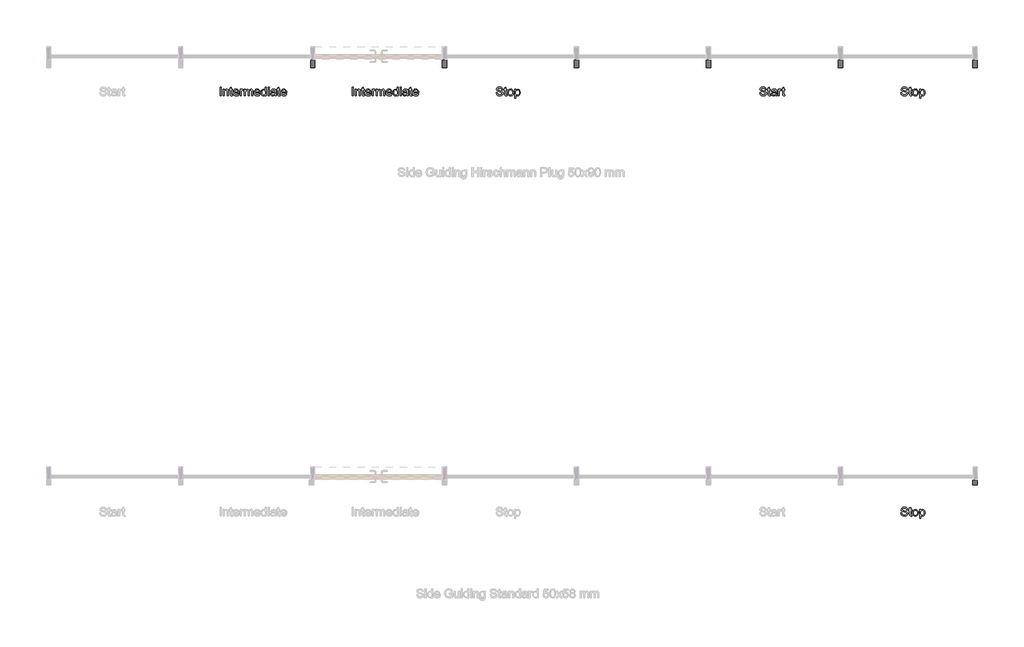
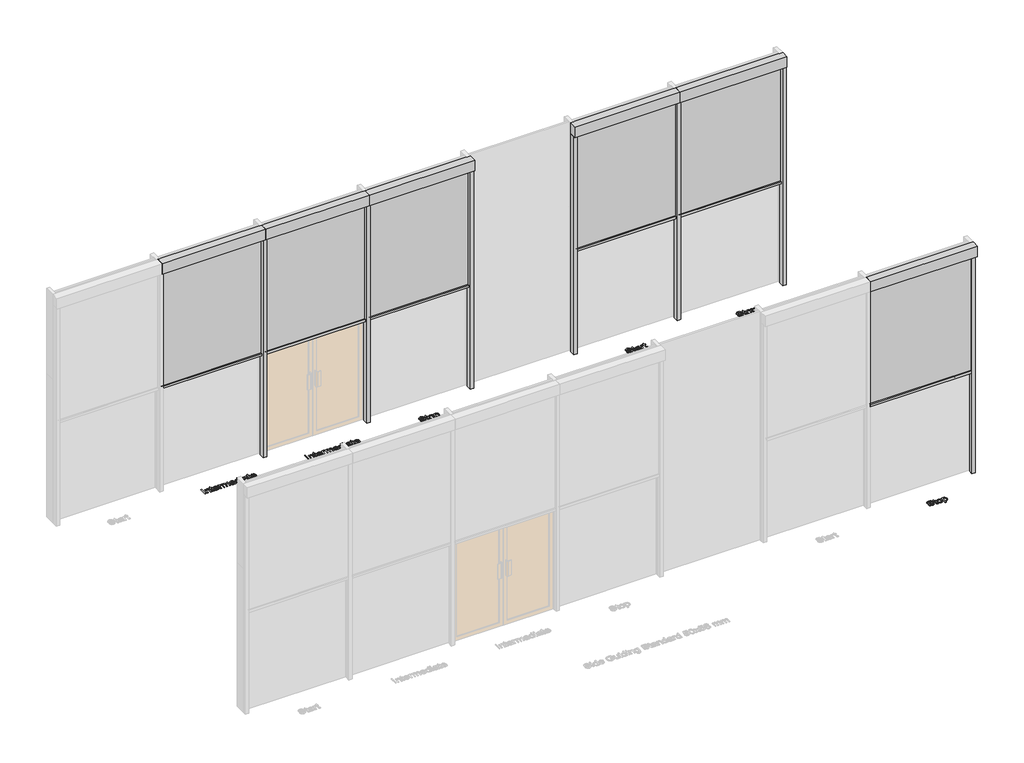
# One storey, part 8 of 8: 12 proxies.
"""IFC4 building model written with IfcOpenShell, lengths in millimetres."""

from ifc_helpers import new_model, si_unit, origin, origin_with_axes, place, context, project, spatial, polyline, outline, extrude, transform, mapped, element, save
from components import generic_models_6516fcb3, generic_models_74c36e77, generic_models_59065b77, generic_models_1de3ce15, generic_models_317902a9

model = new_model("IFC4")

# Units and contexts
model_context = context("Model", 3, world=origin())
ifc_project = project(units=[si_unit("LENGTHUNIT", "METRE", prefix="MILLI")], contexts=[model_context])

# Site, building, storey
site = spatial("IfcSite", under=ifc_project)
building = spatial("IfcBuilding", under=site)
storey = spatial("IfcBuildingStorey", under=building, Name="Fixscreen Mini CW50 Overview Top", Elevation=0.0)

# Proxies
placement = place(None, origin())
generic_models_shape = generic_models_6516fcb3(model_context)
element("IfcBuildingElementProxy", 1, Name="Renson_Fixscreen_Minimal_CW50_Middle : For curtain wall - Middle element - Access downwards - Fabric close to the window", ObjectType="Renson_Fixscreen_Minimal_CW50_Middle : For curtain wall - Middle element - Access downwards - Fabric close to the window", at=placement, inside=storey, context=model_context, shape_type="MappedRepresentation", body=[
    mapped(generic_models_shape, transform((-5413.6521319, 5887.7476142, 0.0), x_axis=(1.0, 0.0, 0.0), y_axis=(0.0, 1.0, 0.0), z_axis=(0.0, 0.0, 1.0))),
])
element("IfcBuildingElementProxy", 2, Name="Renson_Fixscreen_Minimal_CW50_Middle : For curtain wall - Middle element - Access downwards - Fabric close to the window", ObjectType="Renson_Fixscreen_Minimal_CW50_Middle : For curtain wall - Middle element - Access downwards - Fabric close to the window", at=placement, inside=storey, context=model_context, shape_type="MappedRepresentation", body=[
    mapped(generic_models_shape, transform((-6913.6521319, 5887.7476142, 0.0), x_axis=(1.0, 0.0, 0.0), y_axis=(0.0, 1.0, 0.0), z_axis=(0.0, 0.0, 1.0))),
])
generic_models_2_shape = generic_models_74c36e77(model_context)
element("IfcBuildingElementProxy", 3, Name="Renson_Fixscreen_Minimal_CW50_End : For curtain wall - End element - Access downwards - Fabric close to the window", ObjectType="Renson_Fixscreen_Minimal_CW50_End : For curtain wall - End element - Access downwards - Fabric close to the window", at=placement, inside=storey, context=model_context, shape_type="MappedRepresentation", body=[
    mapped(generic_models_2_shape, transform((-3913.6900961, 5887.7476142, 0.0), x_axis=(1.0, 0.0, 0.0), y_axis=(0.0, 1.0, 0.0), z_axis=(0.0, 0.0, 1.0))),
])
generic_models_3_shape = generic_models_59065b77(model_context)
element("IfcBuildingElementProxy", 4, Name="Renson_Fixscreen_Minimal_CW50_End : For curtain wall - End element - Access downwards - Fabric close to the window", ObjectType="Renson_Fixscreen_Minimal_CW50_End : For curtain wall - End element - Access downwards - Fabric close to the window", at=placement, inside=storey, context=model_context, shape_type="MappedRepresentation", body=[
    mapped(generic_models_3_shape, transform((611.3099039, 1107.6014385, 0.0), x_axis=(1.0, 0.0, 0.0), y_axis=(0.0, 1.0, 0.0), z_axis=(0.0, 0.0, 1.0))),
])
generic_models_4_shape = generic_models_1de3ce15(model_context)
element("IfcBuildingElementProxy", 5, Name="Renson_Fixscreen_Minimal_CW50_End : For curtain wall - End element - Access downwards - Fabric close to the window", ObjectType="Renson_Fixscreen_Minimal_CW50_End : For curtain wall - End element - Access downwards - Fabric close to the window", at=placement, inside=storey, context=model_context, shape_type="MappedRepresentation", body=[
    mapped(generic_models_4_shape, transform((611.3478681, 5887.7476142, 0.0), x_axis=(1.0, 0.0, 0.0), y_axis=(0.0, 1.0, 0.0), z_axis=(0.0, 0.0, 1.0))),
])
generic_models_5_shape = generic_models_317902a9(model_context)
element("IfcBuildingElementProxy", 6, Name="Renson_Fixscreen_Minimal_CW50_Start : For curtain wall - Start element - Access downwards - Fabric close to the window", ObjectType="Renson_Fixscreen_Minimal_CW50_Start : For curtain wall - Start element - Access downwards - Fabric close to the window", at=placement, inside=storey, context=model_context, shape_type="MappedRepresentation", body=[
    mapped(generic_models_5_shape, transform((-913.6521319, 5887.7476142, 0.0), x_axis=(1.0000000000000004, 0.0, 0.0), y_axis=(0.0, 1.0000000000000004, 0.0), z_axis=(0.0, 0.0, 1.0))),
])
element("IfcBuildingElementProxy", 7, Name="100mm Arial", ObjectType="100mm Arial", at=placement, inside=storey, context=model_context, shape_type="SweptSolid", body=[
    extrude(outline(polyline([(-5961.9211574, 4784.0953647), (-5961.9211574, 4884.5516749), (-5949.3641186, 4884.5516749), (-5949.3641186, 4784.0953647), (-5961.9211574, 4784.0953647)])), origin_with_axes(), (0.0, 0.0, 1.0), 5.0),
    extrude(outline(polyline([(-5925.8196709, 4784.0953647), (-5925.8196709, 4857.8679675), (-5913.2626321, 4857.8679675), (-5913.2626321, 4847.5672716), (-5903.6609121, 4856.4700159), (-5890.5520503, 4859.4375974), (-5878.6939873, 4857.0463644), (-5870.6005834, 4850.767845), (-5866.8359243, 4841.5340069), (-5866.1737367, 4829.3939011), (-5866.1737367, 4784.0953647), (-5878.7307755, 4784.0953647), (-5878.7307755, 4827.7016439), (-5880.177778, 4838.8116802), (-5885.2913378, 4844.6855293), (-5893.9120392, 4846.8805586), (-5907.5359357, 4841.9509399), (-5911.830958, 4834.8078978), (-5913.2626321, 4823.238009), (-5913.2626321, 4784.0953647), (-5925.8196709, 4784.0953647)])), origin_with_axes(), (0.0, 0.0, 1.0), 5.0),
    extrude(outline(polyline([(-5822.2241011, 4794.5677389), (-5820.6544712, 4783.7274827), (-5830.0477248, 4782.5257349), (-5840.5691499, 4784.6103995), (-5845.8175997, 4790.0795785), (-5847.3381786, 4804.3288745), (-5847.3381786, 4845.3109287), (-5856.7559577, 4845.3109287), (-5856.7559577, 4857.8679675), (-5847.3381786, 4857.8679675), (-5847.3381786, 4875.7960834), (-5834.7811398, 4883.1782488), (-5834.7811398, 4857.8679675), (-5822.2241011, 4857.8679675), (-5822.2241011, 4845.3109287), (-5834.7811398, 4845.3109287), (-5834.7811398, 4804.6967565), (-5834.1189522, 4798.2220334), (-5831.9729739, 4795.9289023), (-5827.69328, 4795.0827737), (-5822.2241011, 4794.5677389)])), origin_with_axes(), (0.0, 0.0, 1.0), 5.0),
    extrude(outline(polyline([(-5758.0164302, 4806.0701826), (-5745.7046461, 4804.5005527), (-5750.1406898, 4795.2237951), (-5757.2193525, 4788.2892195), (-5766.7812187, 4783.966606), (-5778.6668728, 4782.5257349), (-5793.4005467, 4785.012004), (-5804.7374435, 4792.4708115), (-5811.9663248, 4804.4177793), (-5814.3759518, 4820.3685295), (-5811.9417993, 4836.8557742), (-5804.6393417, 4849.1859524), (-5793.455729, 4856.8746861), (-5779.3781113, 4859.4375974), (-5765.7388864, 4856.8808175), (-5754.8403823, 4849.2104779), (-5747.6942745, 4836.9048252), (-5745.3122386, 4820.4421059), (-5745.385815, 4817.0575915), (-5801.8189131, 4817.0575915), (-5799.6453436, 4807.6582065), (-5794.5961632, 4800.7481564), (-5787.309034, 4796.4991193), (-5778.4216182, 4795.0827737), (-5766.1098341, 4797.7069986), (-5758.0164302, 4806.0701826)]), holes=[polyline([(-5801.8189131, 4829.6146303), (-5757.8692774, 4829.6146303), (-5762.896998, 4840.9944467), (-5770.2178497, 4845.4090306), (-5779.4271623, 4846.8805586), (-5794.8904688, 4842.1839318), (-5799.7557082, 4836.693293), (-5801.8189131, 4829.6146303)])]), origin_with_axes(), (0.0, 0.0, 1.0), 5.0),
    extrude(outline(polyline([(-5732.7551998, 4784.0953647), (-5732.7551998, 4857.8679675), (-5721.7677909, 4857.8679675), (-5721.7677909, 4846.954135), (-5713.9686926, 4857.0095762), (-5706.1205434, 4859.4375974), (-5693.5144537, 4855.5625737), (-5697.7083084, 4844.3053846), (-5706.5374763, 4846.8805586), (-5713.6375988, 4844.4034865), (-5718.1625474, 4837.5363559), (-5720.1981611, 4822.870127), (-5720.1981611, 4784.0953647), (-5732.7551998, 4784.0953647)])), origin_with_axes(), (0.0, 0.0, 1.0), 5.0),
    extrude(outline(polyline([(-5685.6663044, 4784.0953647), (-5685.6663044, 4857.8679675), (-5673.1092657, 4857.8679675), (-5673.1092657, 4845.7278617), (-5664.4763015, 4855.6729383), (-5652.1890429, 4859.4375974), (-5639.6074786, 4855.5993619), (-5632.6912971, 4844.8449449), (-5622.8933733, 4855.7894342), (-5610.5202756, 4859.4375974), (-5601.0810367, 4857.9200841), (-5594.1004758, 4853.3675444), (-5589.7870594, 4845.657351), (-5588.349254, 4834.6668763), (-5588.349254, 4784.0953647), (-5600.9062928, 4784.0953647), (-5600.9062928, 4829.2712738), (-5602.0712524, 4839.7559106), (-5606.2896326, 4844.9185213), (-5613.4633315, 4846.8805586), (-5625.8119038, 4841.852838), (-5629.4999208, 4835.3106698), (-5630.7292598, 4825.7396066), (-5630.7292598, 4784.0953647), (-5643.2862986, 4784.0953647), (-5643.2862986, 4830.6692253), (-5646.1925664, 4842.8338566), (-5655.72071, 4846.8805586), (-5665.0158618, 4844.1827573), (-5671.1962793, 4836.2855571), (-5673.1092657, 4821.3004972), (-5673.1092657, 4784.0953647), (-5685.6663044, 4784.0953647)])), origin_with_axes(), (0.0, 0.0, 1.0), 5.0),
    extrude(outline(polyline([(-5517.8630637, 4806.0701826), (-5505.5512796, 4804.5005527), (-5509.9873233, 4795.2237951), (-5517.0659861, 4788.2892195), (-5526.6278522, 4783.966606), (-5538.5135064, 4782.5257349), (-5553.2471803, 4785.012004), (-5564.5840771, 4792.4708115), (-5571.8129583, 4804.4177793), (-5574.2225854, 4820.3685295), (-5571.7884328, 4836.8557742), (-5564.4859752, 4849.1859524), (-5553.3023626, 4856.8746861), (-5539.2247449, 4859.4375974), (-5525.5855199, 4856.8808175), (-5514.6870158, 4849.2104779), (-5507.5409081, 4836.9048252), (-5505.1588721, 4820.4421059), (-5505.2324485, 4817.0575915), (-5561.6655466, 4817.0575915), (-5559.4919771, 4807.6582065), (-5554.4427968, 4800.7481564), (-5547.1556676, 4796.4991193), (-5538.2682517, 4795.0827737), (-5525.9564676, 4797.7069986), (-5517.8630637, 4806.0701826)]), holes=[polyline([(-5561.6655466, 4829.6146303), (-5517.7159109, 4829.6146303), (-5522.7436315, 4840.9944467), (-5530.0644832, 4845.4090306), (-5539.2737958, 4846.8805586), (-5554.7371024, 4842.1839318), (-5559.6023417, 4836.693293), (-5561.6655466, 4829.6146303)])]), origin_with_axes(), (0.0, 0.0, 1.0), 5.0),
    extrude(outline(polyline([(-5447.0825678, 4784.0953647), (-5447.0825678, 4795.941165), (-5455.3905696, 4785.8795924), (-5466.8746192, 4782.5257349), (-5482.4237648, 4787.3817772), (-5493.4111738, 4800.9320974), (-5497.3107229, 4820.9080897), (-5493.7177421, 4840.8963448), (-5482.9510624, 4854.6551314), (-5466.9236701, 4859.4375974), (-5455.34765, 4856.0162948), (-5447.0825678, 4847.1258133), (-5447.0825678, 4884.5516749), (-5434.5255291, 4884.5516749), (-5434.5255291, 4784.0953647), (-5447.0825678, 4784.0953647)]), holes=[polyline([(-5484.7536841, 4820.9571407), (-5483.3373385, 4809.5987841), (-5479.0883014, 4801.5207086), (-5472.9140153, 4796.6922574), (-5465.7219223, 4795.0827737), (-5458.5328949, 4796.618681), (-5452.5149586, 4801.226403), (-5448.4406655, 4808.9917788), (-5447.0825678, 4820.0006475), (-5448.465191, 4832.0365201), (-5452.6130605, 4840.38131), (-5458.784281, 4845.2557464), (-5466.2369571, 4846.8805586), (-5473.5026265, 4845.3201258), (-5479.4561834, 4840.6388274), (-5483.429309, 4832.5975401), (-5484.7536841, 4820.9571407)])]), origin_with_axes(), (0.0, 0.0, 1.0), 5.0),
    extrude(outline(polyline([(-5415.6899709, 4871.9946361), (-5415.6899709, 4884.5516749), (-5403.1329321, 4884.5516749), (-5403.1329321, 4871.9946361), (-5415.6899709, 4871.9946361)])), origin_with_axes(), (0.0, 0.0, 1.0), 5.0),
    extrude(outline(polyline([(-5415.6899709, 4784.0953647), (-5415.6899709, 4857.8679675), (-5403.1329321, 4857.8679675), (-5403.1329321, 4784.0953647), (-5415.6899709, 4784.0953647)])), origin_with_axes(), (0.0, 0.0, 1.0), 5.0),
    extrude(outline(polyline([(-5337.2084786, 4793.5131438), (-5349.3853727, 4785.002807), (-5362.8375909, 4782.5257349), (-5373.3314249, 4784.015657), (-5381.0722752, 4788.4854232), (-5385.8455441, 4795.272846), (-5387.4366337, 4803.7157378), (-5385.033138, 4813.6485517), (-5378.7178304, 4820.8590388), (-5369.9254507, 4824.9793171), (-5359.0606691, 4826.867778), (-5337.282055, 4831.1842601), (-5337.2084786, 4833.9801633), (-5340.6665694, 4843.2507896), (-5354.5479833, 4846.8805586), (-5367.2521749, 4844.4648002), (-5373.3099651, 4835.8931497), (-5385.8670038, 4837.4627795), (-5380.434613, 4849.7255127), (-5369.4962551, 4856.9114743), (-5352.9293025, 4859.4375974), (-5337.7112507, 4857.2057799), (-5329.1150747, 4851.6017109), (-5325.2645765, 4843.0791113), (-5324.6514398, 4832.0917024), (-5324.6514398, 4816.4689803), (-5324.0137777, 4794.653578), (-5321.5121802, 4784.0953647), (-5334.0692189, 4784.0953647), (-5337.2084786, 4793.5131438)]), holes=[polyline([(-5337.2084786, 4818.6272214), (-5357.4665138, 4814.7767231), (-5368.2699817, 4812.7411094), (-5373.1628123, 4809.4301715), (-5374.8795949, 4804.5986546), (-5371.1394613, 4797.8051004), (-5360.1643151, 4795.0827737), (-5347.4601235, 4798.0871433), (-5339.2686178, 4805.3589441), (-5337.282055, 4815.0710287), (-5337.2084786, 4818.6272214)])]), origin_with_axes(), (0.0, 0.0, 1.0), 5.0),
    extrude(outline(polyline([(-5280.7018042, 4794.5677389), (-5279.1321743, 4783.7274827), (-5288.5254279, 4782.5257349), (-5299.046853, 4784.6103995), (-5304.2953028, 4790.0795785), (-5305.8158817, 4804.3288745), (-5305.8158817, 4845.3109287), (-5315.2336608, 4845.3109287), (-5315.2336608, 4857.8679675), (-5305.8158817, 4857.8679675), (-5305.8158817, 4875.7960834), (-5293.2588429, 4883.1782488), (-5293.2588429, 4857.8679675), (-5280.7018042, 4857.8679675), (-5280.7018042, 4845.3109287), (-5293.2588429, 4845.3109287), (-5293.2588429, 4804.6967565), (-5292.5966553, 4798.2220334), (-5290.450677, 4795.9289023), (-5286.1709831, 4795.0827737), (-5280.7018042, 4794.5677389)])), origin_with_axes(), (0.0, 0.0, 1.0), 5.0),
    extrude(outline(polyline([(-5216.4941333, 4806.0701826), (-5204.1823492, 4804.5005527), (-5208.6183929, 4795.2237951), (-5215.6970556, 4788.2892195), (-5225.2589218, 4783.966606), (-5237.1445759, 4782.5257349), (-5251.8782498, 4785.012004), (-5263.2151466, 4792.4708115), (-5270.4440279, 4804.4177793), (-5272.8536549, 4820.3685295), (-5270.4195024, 4836.8557742), (-5263.1170448, 4849.1859524), (-5251.9334321, 4856.8746861), (-5237.8558144, 4859.4375974), (-5224.2165895, 4856.8808175), (-5213.3180854, 4849.2104779), (-5206.1719776, 4836.9048252), (-5203.7899417, 4820.4421059), (-5203.8635181, 4817.0575915), (-5260.2966162, 4817.0575915), (-5258.1230467, 4807.6582065), (-5253.0738663, 4800.7481564), (-5245.7867371, 4796.4991193), (-5236.8993213, 4795.0827737), (-5224.5875372, 4797.7069986), (-5216.4941333, 4806.0701826)]), holes=[polyline([(-5260.2966162, 4829.6146303), (-5216.3469805, 4829.6146303), (-5221.3747011, 4840.9944467), (-5228.6955528, 4845.4090306), (-5237.9048654, 4846.8805586), (-5253.3681719, 4842.1839318), (-5258.2334113, 4836.693293), (-5260.2966162, 4829.6146303)])]), origin_with_axes(), (0.0, 0.0, 1.0), 5.0),
])
element("IfcBuildingElementProxy", 8, Name="100mm Arial", ObjectType="100mm Arial", at=placement, inside=storey, context=model_context, shape_type="SweptSolid", body=[
    extrude(outline(polyline([(-4324.1222357, 4818.6272214), (-4311.5651969, 4818.6272214), (-4307.518495, 4806.0579199), (-4297.634732, 4798.1116688), (-4282.5760957, 4795.0827737), (-4269.4549712, 4797.3759048), (-4260.9814226, 4803.6789496), (-4258.1977821, 4812.1034473), (-4260.2824468, 4819.9393338), (-4268.8173091, 4825.6415047), (-4287.1010442, 4830.4362334), (-4306.782731, 4836.6289137), (-4317.4635716, 4845.9731163), (-4320.982976, 4858.4565787), (-4316.6297057, 4872.6690864), (-4303.9132514, 4882.7000022), (-4285.2984224, 4886.1213047), (-4265.4327947, 4882.5405867), (-4252.1890429, 4872.0191616), (-4247.2103732, 4856.2983377), (-4259.767412, 4856.2983377), (-4262.0728058, 4863.7908676), (-4266.8797972, 4869.198733), (-4284.8079131, 4873.564266), (-4302.78508, 4869.2477839), (-4308.4259372, 4858.8244607), (-4304.4282862, 4850.1179201), (-4283.9249963, 4843.1036368), (-4261.7049238, 4836.8005919), (-4249.5525552, 4826.6225234), (-4245.6407434, 4812.4222784), (-4250.1411664, 4797.4004302), (-4263.0906127, 4786.4375468), (-4282.0855864, 4782.5257349), (-4304.5141253, 4786.7441151), (-4318.7021076, 4799.4483067), (-4324.1222357, 4818.6272214)])), origin_with_axes(), (0.0, 0.0, 1.0), 5.0),
    extrude(outline(polyline([(-4201.6911077, 4794.5677389), (-4200.1214778, 4783.7274827), (-4209.5147314, 4782.5257349), (-4220.0361565, 4784.6103995), (-4225.2846063, 4790.0795785), (-4226.8051852, 4804.3288745), (-4226.8051852, 4845.3109287), (-4236.2229643, 4845.3109287), (-4236.2229643, 4857.8679675), (-4226.8051852, 4857.8679675), (-4226.8051852, 4875.7960834), (-4214.2481464, 4883.1782488), (-4214.2481464, 4857.8679675), (-4201.6911077, 4857.8679675), (-4201.6911077, 4845.3109287), (-4214.2481464, 4845.3109287), (-4214.2481464, 4804.6967565), (-4213.5859589, 4798.2220334), (-4211.4399805, 4795.9289023), (-4207.1602867, 4795.0827737), (-4201.6911077, 4794.5677389)])), origin_with_axes(), (0.0, 0.0, 1.0), 5.0),
    extrude(outline(polyline([(-4192.2733286, 4820.9816661), (-4189.5571332, 4838.7687606), (-4181.408547, 4851.2706171), (-4171.3408431, 4857.3958523), (-4159.2865764, 4859.4375974), (-4146.0949412, 4856.9513282), (-4135.5581877, 4849.4925208), (-4128.6512032, 4837.6497862), (-4126.3488751, 4822.0117357), (-4130.4201025, 4799.6690359), (-4142.2781655, 4787.026158), (-4159.2865764, 4782.5257349), (-4172.6376271, 4785.002807), (-4183.1621179, 4792.4340233), (-4189.9955259, 4804.5250782), (-4192.2733286, 4820.9816661)]), holes=[polyline([(-4179.7162898, 4821.0061916), (-4178.263156, 4809.6417036), (-4173.9037543, 4801.545234), (-4167.3431921, 4796.6983888), (-4159.2865764, 4795.0827737), (-4151.2667489, 4796.7075858), (-4144.7184494, 4801.5820222), (-4140.3590477, 4809.7857907), (-4138.9059138, 4821.3985991), (-4140.3682448, 4832.4319932), (-4144.7552376, 4840.4180982), (-4151.3127341, 4845.2649435), (-4159.2865764, 4846.8805586), (-4167.3431921, 4845.2710749), (-4173.9037543, 4840.4426237), (-4178.263156, 4832.3645482), (-4179.7162898, 4821.0061916)])]), origin_with_axes(), (0.0, 0.0, 1.0), 5.0),
    extrude(outline(polyline([(-4112.2222065, 4755.8420275), (-4112.2222065, 4857.8679675), (-4099.6651677, 4857.8679675), (-4099.6651677, 4845.5561834), (-4090.9831526, 4855.9672439), (-4079.2599797, 4859.4375974), (-4063.342952, 4854.581555), (-4052.9441543, 4840.8963448), (-4049.4370126, 4821.5457519), (-4053.3978754, 4801.2018775), (-4064.9003191, 4787.344989), (-4080.7805586, 4782.5257349), (-4091.7066539, 4785.7508337), (-4099.6651677, 4793.9055513), (-4099.6651677, 4755.8420275), (-4112.2222065, 4755.8420275)]), holes=[polyline([(-4099.6651677, 4820.3930549), (-4098.30707, 4809.1358659), (-4094.2327769, 4801.2631912), (-4088.2209719, 4796.627878), (-4081.0503387, 4795.0827737), (-4073.7632095, 4796.6830603), (-4067.5981204, 4801.4839204), (-4063.3950686, 4809.6447693), (-4061.9940514, 4821.3250227), (-4063.3613461, 4832.520898), (-4067.4632304, 4840.5039373), (-4073.4658383, 4845.2864033), (-4080.5353039, 4846.8805586), (-4087.6323608, 4845.1852357), (-4093.8648949, 4840.0992671), (-4098.2150995, 4831.7820684), (-4099.6651677, 4820.3930549)])]), origin_with_axes(), (0.0, 0.0, 1.0), 5.0),
])
element("IfcBuildingElementProxy", 9, Name="100mm Arial", ObjectType="100mm Arial", at=placement, inside=storey, context=model_context, shape_type="SweptSolid", body=[
    extrude(outline(polyline([(-1328.8311252, 4818.6272214), (-1316.2740864, 4818.6272214), (-1312.2273845, 4806.0579199), (-1302.3436216, 4798.1116688), (-1287.2849852, 4795.0827737), (-1274.1638607, 4797.3759048), (-1265.6903121, 4803.6789496), (-1262.9066717, 4812.1034473), (-1264.9913363, 4819.9393338), (-1273.5261986, 4825.6415047), (-1291.8099338, 4830.4362334), (-1311.4916205, 4836.6289137), (-1322.1724611, 4845.9731163), (-1325.6918655, 4858.4565787), (-1321.3385952, 4872.6690864), (-1308.6221409, 4882.7000022), (-1290.007312, 4886.1213047), (-1270.1416842, 4882.5405867), (-1256.8979324, 4872.0191616), (-1251.9192628, 4856.2983377), (-1264.4763015, 4856.2983377), (-1266.7816954, 4863.7908676), (-1271.5886868, 4869.198733), (-1289.5168027, 4873.564266), (-1307.4939695, 4869.2477839), (-1313.1348267, 4858.8244607), (-1309.1371757, 4850.1179201), (-1288.6338859, 4843.1036368), (-1266.4138134, 4836.8005919), (-1254.2614448, 4826.6225234), (-1250.3496329, 4812.4222784), (-1254.850056, 4797.4004302), (-1267.7995022, 4786.4375468), (-1286.7944759, 4782.5257349), (-1309.2230149, 4786.7441151), (-1323.4109971, 4799.4483067), (-1328.8311252, 4818.6272214)])), origin_with_axes(), (0.0, 0.0, 1.0), 5.0),
    extrude(outline(polyline([(-1206.3999972, 4794.5677389), (-1204.8303674, 4783.7274827), (-1214.223621, 4782.5257349), (-1224.745046, 4784.6103995), (-1229.9934958, 4790.0795785), (-1231.5140748, 4804.3288745), (-1231.5140748, 4845.3109287), (-1240.9318538, 4845.3109287), (-1240.9318538, 4857.8679675), (-1231.5140748, 4857.8679675), (-1231.5140748, 4875.7960834), (-1218.957036, 4883.1782488), (-1218.957036, 4857.8679675), (-1206.3999972, 4857.8679675), (-1206.3999972, 4845.3109287), (-1218.957036, 4845.3109287), (-1218.957036, 4804.6967565), (-1218.2948484, 4798.2220334), (-1216.1488701, 4795.9289023), (-1211.8691762, 4795.0827737), (-1206.3999972, 4794.5677389)])), origin_with_axes(), (0.0, 0.0, 1.0), 5.0),
    extrude(outline(polyline([(-1146.7540631, 4793.5131438), (-1158.9309571, 4785.002807), (-1172.3831754, 4782.5257349), (-1182.8770093, 4784.015657), (-1190.6178596, 4788.4854232), (-1195.3911285, 4795.272846), (-1196.9822181, 4803.7157378), (-1194.5787224, 4813.6485517), (-1188.2634149, 4820.8590388), (-1179.4710352, 4824.9793171), (-1168.6062536, 4826.867778), (-1146.8276395, 4831.1842601), (-1146.7540631, 4833.9801633), (-1150.2121538, 4843.2507896), (-1164.0935678, 4846.8805586), (-1176.7977593, 4844.4648002), (-1182.8555495, 4835.8931497), (-1195.4125883, 4837.4627795), (-1189.9801975, 4849.7255127), (-1179.0418395, 4856.9114743), (-1162.474887, 4859.4375974), (-1147.2568351, 4857.2057799), (-1138.6606592, 4851.6017109), (-1134.810161, 4843.0791113), (-1134.1970243, 4832.0917024), (-1134.1970243, 4816.4689803), (-1133.5593622, 4794.653578), (-1131.0577646, 4784.0953647), (-1143.6148034, 4784.0953647), (-1146.7540631, 4793.5131438)]), holes=[polyline([(-1146.7540631, 4818.6272214), (-1167.0120983, 4814.7767231), (-1177.8155662, 4812.7411094), (-1182.7083967, 4809.4301715), (-1184.4251794, 4804.5986546), (-1180.6850458, 4797.8051004), (-1169.7098996, 4795.0827737), (-1157.005708, 4798.0871433), (-1148.8142022, 4805.3589441), (-1146.8276395, 4815.0710287), (-1146.7540631, 4818.6272214)])]), origin_with_axes(), (0.0, 0.0, 1.0), 5.0),
    extrude(outline(polyline([(-1116.931096, 4784.0953647), (-1116.931096, 4857.8679675), (-1105.9436871, 4857.8679675), (-1105.9436871, 4846.954135), (-1098.1445888, 4857.0095762), (-1090.2964395, 4859.4375974), (-1077.6903498, 4855.5625737), (-1081.8842046, 4844.3053846), (-1090.7133725, 4846.8805586), (-1097.813495, 4844.4034865), (-1102.3384435, 4837.5363559), (-1104.3740572, 4822.870127), (-1104.3740572, 4784.0953647), (-1116.931096, 4784.0953647)])), origin_with_axes(), (0.0, 0.0, 1.0), 5.0),
    extrude(outline(polyline([(-1043.1584932, 4794.5677389), (-1041.5888634, 4783.7274827), (-1050.982117, 4782.5257349), (-1061.503542, 4784.6103995), (-1066.7519918, 4790.0795785), (-1068.2725708, 4804.3288745), (-1068.2725708, 4845.3109287), (-1077.6903498, 4845.3109287), (-1077.6903498, 4857.8679675), (-1068.2725708, 4857.8679675), (-1068.2725708, 4875.7960834), (-1055.715532, 4883.1782488), (-1055.715532, 4857.8679675), (-1043.1584932, 4857.8679675), (-1043.1584932, 4845.3109287), (-1055.715532, 4845.3109287), (-1055.715532, 4804.6967565), (-1055.0533444, 4798.2220334), (-1052.9073661, 4795.9289023), (-1048.6276722, 4795.0827737), (-1043.1584932, 4794.5677389)])), origin_with_axes(), (0.0, 0.0, 1.0), 5.0),
])
element("IfcBuildingElementProxy", 10, Name="100mm Arial", ObjectType="100mm Arial", at=placement, inside=storey, context=model_context, shape_type="SweptSolid", body=[
    extrude(outline(polyline([(275.8777643, 4818.6272214), (288.4348031, 4818.6272214), (292.481505, 4806.0579199), (302.365268, 4798.1116688), (317.4239043, 4795.0827737), (330.5450288, 4797.3759048), (339.0185774, 4803.6789496), (341.8022179, 4812.1034473), (339.7175532, 4819.9393338), (331.1826909, 4825.6415047), (312.8989558, 4830.4362334), (293.217269, 4836.6289137), (282.5364284, 4845.9731163), (279.017024, 4858.4565787), (283.3702943, 4872.6690864), (296.0867486, 4882.7000022), (314.7015776, 4886.1213047), (334.5672053, 4882.5405867), (347.8109571, 4872.0191616), (352.7896268, 4856.2983377), (340.232588, 4856.2983377), (337.9271942, 4863.7908676), (333.1202028, 4869.198733), (315.1920869, 4873.564266), (297.21492, 4869.2477839), (291.5740628, 4858.8244607), (295.5717138, 4850.1179201), (316.0750037, 4843.1036368), (338.2950762, 4836.8005919), (350.4474448, 4826.6225234), (354.3592566, 4812.4222784), (349.8588336, 4797.4004302), (336.9093873, 4786.4375468), (317.9144136, 4782.5257349), (295.4858747, 4786.7441151), (281.2978924, 4799.4483067), (275.8777643, 4818.6272214)])), origin_with_axes(), (0.0, 0.0, 1.0), 5.0),
    extrude(outline(polyline([(398.3088923, 4794.5677389), (399.8785222, 4783.7274827), (390.4852686, 4782.5257349), (379.9638435, 4784.6103995), (374.7153937, 4790.0795785), (373.1948148, 4804.3288745), (373.1948148, 4845.3109287), (363.7770357, 4845.3109287), (363.7770357, 4857.8679675), (373.1948148, 4857.8679675), (373.1948148, 4875.7960834), (385.7518536, 4883.1782488), (385.7518536, 4857.8679675), (398.3088923, 4857.8679675), (398.3088923, 4845.3109287), (385.7518536, 4845.3109287), (385.7518536, 4804.6967565), (386.4140411, 4798.2220334), (388.5600195, 4795.9289023), (392.8397133, 4795.0827737), (398.3088923, 4794.5677389)])), origin_with_axes(), (0.0, 0.0, 1.0), 5.0),
    extrude(outline(polyline([(407.7266714, 4820.9816661), (410.4428668, 4838.7687606), (418.591453, 4851.2706171), (428.6591569, 4857.3958523), (440.7134236, 4859.4375974), (453.9050588, 4856.9513282), (464.4418123, 4849.4925208), (471.3487968, 4837.6497862), (473.6511249, 4822.0117357), (469.5798975, 4799.6690359), (457.7218345, 4787.026158), (440.7134236, 4782.5257349), (427.3623729, 4785.002807), (416.8378821, 4792.4340233), (410.0044741, 4804.5250782), (407.7266714, 4820.9816661)]), holes=[polyline([(420.2837102, 4821.0061916), (421.736844, 4809.6417036), (426.0962457, 4801.545234), (432.6568079, 4796.6983888), (440.7134236, 4795.0827737), (448.7332511, 4796.7075858), (455.2815506, 4801.5820222), (459.6409523, 4809.7857907), (461.0940862, 4821.3985991), (459.6317552, 4832.4319932), (455.2447624, 4840.4180982), (448.6872659, 4845.2649435), (440.7134236, 4846.8805586), (432.6568079, 4845.2710749), (426.0962457, 4840.4426237), (421.736844, 4832.3645482), (420.2837102, 4821.0061916)])]), origin_with_axes(), (0.0, 0.0, 1.0), 5.0),
    extrude(outline(polyline([(487.7777935, 4755.8420275), (487.7777935, 4857.8679675), (500.3348323, 4857.8679675), (500.3348323, 4845.5561834), (509.0168474, 4855.9672439), (520.7400203, 4859.4375974), (536.657048, 4854.581555), (547.0558457, 4840.8963448), (550.5629874, 4821.5457519), (546.6021246, 4801.2018775), (535.0996809, 4787.344989), (519.2194414, 4782.5257349), (508.2933461, 4785.7508337), (500.3348323, 4793.9055513), (500.3348323, 4755.8420275), (487.7777935, 4755.8420275)]), holes=[polyline([(500.3348323, 4820.3930549), (501.69293, 4809.1358659), (505.7672231, 4801.2631912), (511.7790281, 4796.627878), (518.9496613, 4795.0827737), (526.2367905, 4796.6830603), (532.4018796, 4801.4839204), (536.6049314, 4809.6447693), (538.0059486, 4821.3250227), (536.6386539, 4832.520898), (532.5367696, 4840.5039373), (526.5341617, 4845.2864033), (519.4646961, 4846.8805586), (512.3676392, 4845.1852357), (506.1351051, 4840.0992671), (501.7849005, 4831.7820684), (500.3348323, 4820.3930549)])]), origin_with_axes(), (0.0, 0.0, 1.0), 5.0),
])
element("IfcBuildingElementProxy", 11, Name="100mm Arial", ObjectType="100mm Arial", at=placement, inside=storey, context=model_context, shape_type="SweptSolid", body=[
    extrude(outline(polyline([(275.8777643, 38.4810457), (288.4348031, 38.4810457), (292.481505, 25.9117442), (302.365268, 17.9654931), (317.4239043, 14.936598), (330.5450288, 17.2297291), (339.0185774, 23.532774), (341.8022179, 31.9572716), (339.7175532, 39.7931581), (331.1826909, 45.4953291), (312.8989558, 50.2900577), (293.217269, 56.482738), (282.5364284, 65.8269407), (279.017024, 78.310403), (283.3702943, 92.5229108), (296.0867486, 102.5538265), (314.7015776, 105.9751291), (334.5672053, 102.394411), (347.8109571, 91.8729859), (352.7896268, 76.152162), (340.232588, 76.152162), (337.9271942, 83.644692), (333.1202028, 89.0525573), (315.1920869, 93.4180903), (297.21492, 89.1016082), (291.5740628, 78.678285), (295.5717138, 69.9717445), (316.0750037, 62.9574611), (338.2950762, 56.6544163), (350.4474448, 46.4763477), (354.3592566, 32.2761027), (349.8588336, 17.2542546), (336.9093873, 6.2913711), (317.9144136, 2.3795592), (295.4858747, 6.5979394), (281.2978924, 19.302131), (275.8777643, 38.4810457)])), origin_with_axes(), (0.0, 0.0, 1.0), 5.0),
    extrude(outline(polyline([(398.3088923, 14.4215632), (399.8785222, 3.5813071), (390.4852686, 2.3795592), (379.9638435, 4.4642239), (374.7153937, 9.9334029), (373.1948148, 24.1826988), (373.1948148, 65.1647531), (363.7770357, 65.1647531), (363.7770357, 77.7217918), (373.1948148, 77.7217918), (373.1948148, 95.6499077), (385.7518536, 103.0320731), (385.7518536, 77.7217918), (398.3088923, 77.7217918), (398.3088923, 65.1647531), (385.7518536, 65.1647531), (385.7518536, 24.5505808), (386.4140411, 18.0758577), (388.5600195, 15.7827266), (392.8397133, 14.936598), (398.3088923, 14.4215632)])), origin_with_axes(), (0.0, 0.0, 1.0), 5.0),
    extrude(outline(polyline([(407.7266714, 40.8354905), (410.4428668, 58.6225849), (418.591453, 71.1244414), (428.6591569, 77.2496766), (440.7134236, 79.2914217), (453.9050588, 76.8051525), (464.4418123, 69.3463451), (471.3487968, 57.5036105), (473.6511249, 41.8655601), (469.5798975, 19.5228602), (457.7218345, 6.8799823), (440.7134236, 2.3795592), (427.3623729, 4.8566313), (416.8378821, 12.2878476), (410.0044741, 24.3789025), (407.7266714, 40.8354905)]), holes=[polyline([(420.2837102, 40.8600159), (421.736844, 29.495528), (426.0962457, 21.3990584), (432.6568079, 16.5522131), (440.7134236, 14.936598), (448.7332511, 16.5614102), (455.2815506, 21.4358466), (459.6409523, 29.6396151), (461.0940862, 41.2524234), (459.6317552, 52.2858176), (455.2447624, 60.2719225), (448.6872659, 65.1187678), (440.7134236, 66.7343829), (432.6568079, 65.1248992), (426.0962457, 60.296448), (421.736844, 52.2183725), (420.2837102, 40.8600159)])]), origin_with_axes(), (0.0, 0.0, 1.0), 5.0),
    extrude(outline(polyline([(487.7777935, -24.3041481), (487.7777935, 77.7217918), (500.3348323, 77.7217918), (500.3348323, 65.4100077), (509.0168474, 75.8210682), (520.7400203, 79.2914217), (536.657048, 74.4353794), (547.0558457, 60.7501691), (550.5629874, 41.3995762), (546.6021246, 21.0557019), (535.0996809, 7.1988134), (519.2194414, 2.3795592), (508.2933461, 5.6046581), (500.3348323, 13.7593756), (500.3348323, -24.3041481), (487.7777935, -24.3041481)]), holes=[polyline([(500.3348323, 40.2468793), (501.69293, 28.9896902), (505.7672231, 21.1170155), (511.7790281, 16.4817024), (518.9496613, 14.936598), (526.2367905, 16.5368847), (532.4018796, 21.3377447), (536.6049314, 29.4985936), (538.0059486, 41.178847), (536.6386539, 52.3747224), (532.5367696, 60.3577617), (526.5341617, 65.1402276), (519.4646961, 66.7343829), (512.3676392, 65.0390601), (506.1351051, 59.9530915), (501.7849005, 51.6358927), (500.3348323, 40.2468793)])]), origin_with_axes(), (0.0, 0.0, 1.0), 5.0),
])
element("IfcBuildingElementProxy", 12, Name="100mm Arial", ObjectType="100mm Arial", at=placement, inside=storey, context=model_context, shape_type="SweptSolid", body=[
    extrude(outline(polyline([(-7461.9211574, 4784.0953647), (-7461.9211574, 4884.5516749), (-7449.3641186, 4884.5516749), (-7449.3641186, 4784.0953647), (-7461.9211574, 4784.0953647)])), origin_with_axes(), (0.0, 0.0, 1.0), 5.0),
    extrude(outline(polyline([(-7425.8196709, 4784.0953647), (-7425.8196709, 4857.8679675), (-7413.2626321, 4857.8679675), (-7413.2626321, 4847.5672716), (-7403.6609121, 4856.4700159), (-7390.5520503, 4859.4375974), (-7378.6939873, 4857.0463644), (-7370.6005834, 4850.767845), (-7366.8359243, 4841.5340069), (-7366.1737367, 4829.3939011), (-7366.1737367, 4784.0953647), (-7378.7307755, 4784.0953647), (-7378.7307755, 4827.7016439), (-7380.177778, 4838.8116802), (-7385.2913378, 4844.6855293), (-7393.9120392, 4846.8805586), (-7407.5359357, 4841.9509399), (-7411.830958, 4834.8078978), (-7413.2626321, 4823.238009), (-7413.2626321, 4784.0953647), (-7425.8196709, 4784.0953647)])), origin_with_axes(), (0.0, 0.0, 1.0), 5.0),
    extrude(outline(polyline([(-7322.2241011, 4794.5677389), (-7320.6544712, 4783.7274827), (-7330.0477248, 4782.5257349), (-7340.5691499, 4784.6103995), (-7345.8175997, 4790.0795785), (-7347.3381786, 4804.3288745), (-7347.3381786, 4845.3109287), (-7356.7559577, 4845.3109287), (-7356.7559577, 4857.8679675), (-7347.3381786, 4857.8679675), (-7347.3381786, 4875.7960834), (-7334.7811398, 4883.1782488), (-7334.7811398, 4857.8679675), (-7322.2241011, 4857.8679675), (-7322.2241011, 4845.3109287), (-7334.7811398, 4845.3109287), (-7334.7811398, 4804.6967565), (-7334.1189522, 4798.2220334), (-7331.9729739, 4795.9289023), (-7327.69328, 4795.0827737), (-7322.2241011, 4794.5677389)])), origin_with_axes(), (0.0, 0.0, 1.0), 5.0),
    extrude(outline(polyline([(-7258.0164302, 4806.0701826), (-7245.7046461, 4804.5005527), (-7250.1406898, 4795.2237951), (-7257.2193525, 4788.2892195), (-7266.7812187, 4783.966606), (-7278.6668728, 4782.5257349), (-7293.4005467, 4785.012004), (-7304.7374435, 4792.4708115), (-7311.9663248, 4804.4177793), (-7314.3759518, 4820.3685295), (-7311.9417993, 4836.8557742), (-7304.6393417, 4849.1859524), (-7293.455729, 4856.8746861), (-7279.3781113, 4859.4375974), (-7265.7388864, 4856.8808175), (-7254.8403823, 4849.2104779), (-7247.6942745, 4836.9048252), (-7245.3122386, 4820.4421059), (-7245.385815, 4817.0575915), (-7301.8189131, 4817.0575915), (-7299.6453436, 4807.6582065), (-7294.5961632, 4800.7481564), (-7287.309034, 4796.4991193), (-7278.4216182, 4795.0827737), (-7266.1098341, 4797.7069986), (-7258.0164302, 4806.0701826)]), holes=[polyline([(-7301.8189131, 4829.6146303), (-7257.8692774, 4829.6146303), (-7262.896998, 4840.9944467), (-7270.2178497, 4845.4090306), (-7279.4271623, 4846.8805586), (-7294.8904688, 4842.1839318), (-7299.7557082, 4836.693293), (-7301.8189131, 4829.6146303)])]), origin_with_axes(), (0.0, 0.0, 1.0), 5.0),
    extrude(outline(polyline([(-7232.7551998, 4784.0953647), (-7232.7551998, 4857.8679675), (-7221.7677909, 4857.8679675), (-7221.7677909, 4846.954135), (-7213.9686926, 4857.0095762), (-7206.1205434, 4859.4375974), (-7193.5144537, 4855.5625737), (-7197.7083084, 4844.3053846), (-7206.5374763, 4846.8805586), (-7213.6375988, 4844.4034865), (-7218.1625474, 4837.5363559), (-7220.1981611, 4822.870127), (-7220.1981611, 4784.0953647), (-7232.7551998, 4784.0953647)])), origin_with_axes(), (0.0, 0.0, 1.0), 5.0),
    extrude(outline(polyline([(-7185.6663044, 4784.0953647), (-7185.6663044, 4857.8679675), (-7173.1092657, 4857.8679675), (-7173.1092657, 4845.7278617), (-7164.4763015, 4855.6729383), (-7152.1890429, 4859.4375974), (-7139.6074786, 4855.5993619), (-7132.6912971, 4844.8449449), (-7122.8933733, 4855.7894342), (-7110.5202756, 4859.4375974), (-7101.0810367, 4857.9200841), (-7094.1004758, 4853.3675444), (-7089.7870594, 4845.657351), (-7088.349254, 4834.6668763), (-7088.349254, 4784.0953647), (-7100.9062928, 4784.0953647), (-7100.9062928, 4829.2712738), (-7102.0712524, 4839.7559106), (-7106.2896326, 4844.9185213), (-7113.4633315, 4846.8805586), (-7125.8119038, 4841.852838), (-7129.4999208, 4835.3106698), (-7130.7292598, 4825.7396066), (-7130.7292598, 4784.0953647), (-7143.2862986, 4784.0953647), (-7143.2862986, 4830.6692253), (-7146.1925664, 4842.8338566), (-7155.72071, 4846.8805586), (-7165.0158618, 4844.1827573), (-7171.1962793, 4836.2855571), (-7173.1092657, 4821.3004972), (-7173.1092657, 4784.0953647), (-7185.6663044, 4784.0953647)])), origin_with_axes(), (0.0, 0.0, 1.0), 5.0),
    extrude(outline(polyline([(-7017.8630637, 4806.0701826), (-7005.5512796, 4804.5005527), (-7009.9873233, 4795.2237951), (-7017.0659861, 4788.2892195), (-7026.6278522, 4783.966606), (-7038.5135064, 4782.5257349), (-7053.2471803, 4785.012004), (-7064.5840771, 4792.4708115), (-7071.8129583, 4804.4177793), (-7074.2225854, 4820.3685295), (-7071.7884328, 4836.8557742), (-7064.4859752, 4849.1859524), (-7053.3023626, 4856.8746861), (-7039.2247449, 4859.4375974), (-7025.5855199, 4856.8808175), (-7014.6870158, 4849.2104779), (-7007.5409081, 4836.9048252), (-7005.1588721, 4820.4421059), (-7005.2324485, 4817.0575915), (-7061.6655466, 4817.0575915), (-7059.4919771, 4807.6582065), (-7054.4427968, 4800.7481564), (-7047.1556676, 4796.4991193), (-7038.2682517, 4795.0827737), (-7025.9564676, 4797.7069986), (-7017.8630637, 4806.0701826)]), holes=[polyline([(-7061.6655466, 4829.6146303), (-7017.7159109, 4829.6146303), (-7022.7436315, 4840.9944467), (-7030.0644832, 4845.4090306), (-7039.2737958, 4846.8805586), (-7054.7371024, 4842.1839318), (-7059.6023417, 4836.693293), (-7061.6655466, 4829.6146303)])]), origin_with_axes(), (0.0, 0.0, 1.0), 5.0),
    extrude(outline(polyline([(-6947.0825678, 4784.0953647), (-6947.0825678, 4795.941165), (-6955.3905696, 4785.8795924), (-6966.8746192, 4782.5257349), (-6982.4237648, 4787.3817772), (-6993.4111738, 4800.9320974), (-6997.3107229, 4820.9080897), (-6993.7177421, 4840.8963448), (-6982.9510624, 4854.6551314), (-6966.9236701, 4859.4375974), (-6955.34765, 4856.0162948), (-6947.0825678, 4847.1258133), (-6947.0825678, 4884.5516749), (-6934.5255291, 4884.5516749), (-6934.5255291, 4784.0953647), (-6947.0825678, 4784.0953647)]), holes=[polyline([(-6984.7536841, 4820.9571407), (-6983.3373385, 4809.5987841), (-6979.0883014, 4801.5207086), (-6972.9140153, 4796.6922574), (-6965.7219223, 4795.0827737), (-6958.5328949, 4796.618681), (-6952.5149586, 4801.226403), (-6948.4406655, 4808.9917788), (-6947.0825678, 4820.0006475), (-6948.465191, 4832.0365201), (-6952.6130605, 4840.38131), (-6958.784281, 4845.2557464), (-6966.2369571, 4846.8805586), (-6973.5026265, 4845.3201258), (-6979.4561834, 4840.6388274), (-6983.429309, 4832.5975401), (-6984.7536841, 4820.9571407)])]), origin_with_axes(), (0.0, 0.0, 1.0), 5.0),
    extrude(outline(polyline([(-6915.6899709, 4871.9946361), (-6915.6899709, 4884.5516749), (-6903.1329321, 4884.5516749), (-6903.1329321, 4871.9946361), (-6915.6899709, 4871.9946361)])), origin_with_axes(), (0.0, 0.0, 1.0), 5.0),
    extrude(outline(polyline([(-6915.6899709, 4784.0953647), (-6915.6899709, 4857.8679675), (-6903.1329321, 4857.8679675), (-6903.1329321, 4784.0953647), (-6915.6899709, 4784.0953647)])), origin_with_axes(), (0.0, 0.0, 1.0), 5.0),
    extrude(outline(polyline([(-6837.2084786, 4793.5131438), (-6849.3853727, 4785.002807), (-6862.8375909, 4782.5257349), (-6873.3314249, 4784.015657), (-6881.0722752, 4788.4854232), (-6885.8455441, 4795.272846), (-6887.4366337, 4803.7157378), (-6885.033138, 4813.6485517), (-6878.7178304, 4820.8590388), (-6869.9254507, 4824.9793171), (-6859.0606691, 4826.867778), (-6837.282055, 4831.1842601), (-6837.2084786, 4833.9801633), (-6840.6665694, 4843.2507896), (-6854.5479833, 4846.8805586), (-6867.2521749, 4844.4648002), (-6873.3099651, 4835.8931497), (-6885.8670038, 4837.4627795), (-6880.434613, 4849.7255127), (-6869.4962551, 4856.9114743), (-6852.9293025, 4859.4375974), (-6837.7112507, 4857.2057799), (-6829.1150747, 4851.6017109), (-6825.2645765, 4843.0791113), (-6824.6514398, 4832.0917024), (-6824.6514398, 4816.4689803), (-6824.0137777, 4794.653578), (-6821.5121802, 4784.0953647), (-6834.0692189, 4784.0953647), (-6837.2084786, 4793.5131438)]), holes=[polyline([(-6837.2084786, 4818.6272214), (-6857.4665138, 4814.7767231), (-6868.2699817, 4812.7411094), (-6873.1628123, 4809.4301715), (-6874.8795949, 4804.5986546), (-6871.1394613, 4797.8051004), (-6860.1643151, 4795.0827737), (-6847.4601235, 4798.0871433), (-6839.2686178, 4805.3589441), (-6837.282055, 4815.0710287), (-6837.2084786, 4818.6272214)])]), origin_with_axes(), (0.0, 0.0, 1.0), 5.0),
    extrude(outline(polyline([(-6780.7018042, 4794.5677389), (-6779.1321743, 4783.7274827), (-6788.5254279, 4782.5257349), (-6799.046853, 4784.6103995), (-6804.2953028, 4790.0795785), (-6805.8158817, 4804.3288745), (-6805.8158817, 4845.3109287), (-6815.2336608, 4845.3109287), (-6815.2336608, 4857.8679675), (-6805.8158817, 4857.8679675), (-6805.8158817, 4875.7960834), (-6793.2588429, 4883.1782488), (-6793.2588429, 4857.8679675), (-6780.7018042, 4857.8679675), (-6780.7018042, 4845.3109287), (-6793.2588429, 4845.3109287), (-6793.2588429, 4804.6967565), (-6792.5966553, 4798.2220334), (-6790.450677, 4795.9289023), (-6786.1709831, 4795.0827737), (-6780.7018042, 4794.5677389)])), origin_with_axes(), (0.0, 0.0, 1.0), 5.0),
    extrude(outline(polyline([(-6716.4941333, 4806.0701826), (-6704.1823492, 4804.5005527), (-6708.6183929, 4795.2237951), (-6715.6970556, 4788.2892195), (-6725.2589218, 4783.966606), (-6737.1445759, 4782.5257349), (-6751.8782498, 4785.012004), (-6763.2151466, 4792.4708115), (-6770.4440279, 4804.4177793), (-6772.8536549, 4820.3685295), (-6770.4195024, 4836.8557742), (-6763.1170448, 4849.1859524), (-6751.9334321, 4856.8746861), (-6737.8558144, 4859.4375974), (-6724.2165895, 4856.8808175), (-6713.3180854, 4849.2104779), (-6706.1719776, 4836.9048252), (-6703.7899417, 4820.4421059), (-6703.8635181, 4817.0575915), (-6760.2966162, 4817.0575915), (-6758.1230467, 4807.6582065), (-6753.0738663, 4800.7481564), (-6745.7867371, 4796.4991193), (-6736.8993213, 4795.0827737), (-6724.5875372, 4797.7069986), (-6716.4941333, 4806.0701826)]), holes=[polyline([(-6760.2966162, 4829.6146303), (-6716.3469805, 4829.6146303), (-6721.3747011, 4840.9944467), (-6728.6955528, 4845.4090306), (-6737.9048654, 4846.8805586), (-6753.3681719, 4842.1839318), (-6758.2334113, 4836.693293), (-6760.2966162, 4829.6146303)])]), origin_with_axes(), (0.0, 0.0, 1.0), 5.0),
])

save(model, "model.ifc")
